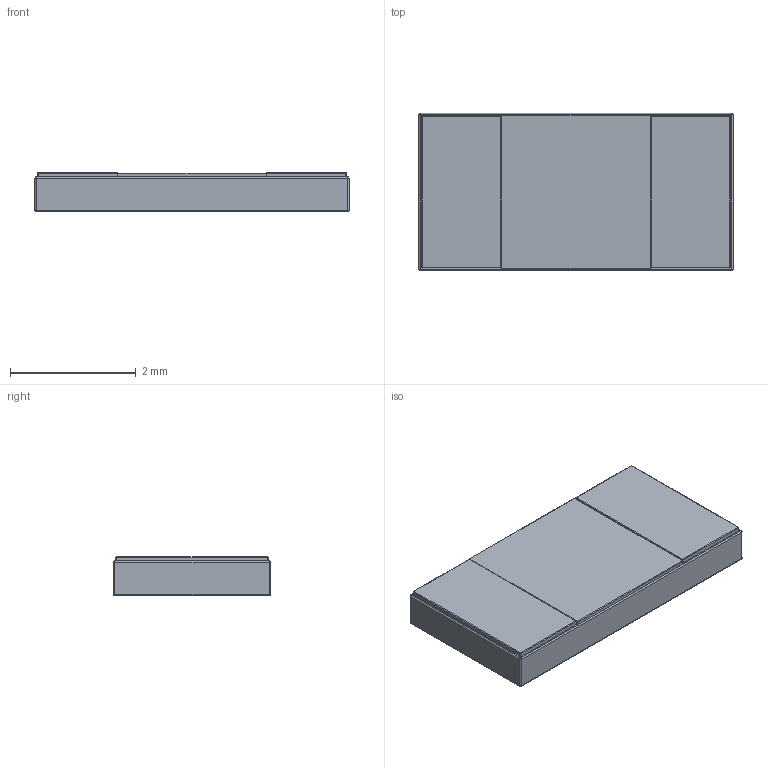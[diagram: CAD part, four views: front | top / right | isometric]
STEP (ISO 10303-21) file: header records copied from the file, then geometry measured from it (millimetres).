
FILE_DESCRIPTION(('STEP AP203'), '1');
FILE_NAME('R2-105-2010', '', ('UNSPECIFIED'), ('UNSPECIFIED'), 'ASCON STEP Converter 1.6', 'ASCON Math Kernel', '');
FILE_SCHEMA(('CONFIG_CONTROL_DESIGN'));
Length unit declared in the file: millimetre
Bounding box: 5 x 2.5 x 0.62 mm (x, y, z)
Volume: 7.7 mm3; surface area: 58.7 mm2
Topology: 4 solids, 5 shells, 91 faces, 207 edges, 110 vertices
Faces by surface type: plane 39, cylinder 36, sphere 16
Entity records: 3165 total; most frequent: DIRECTION 435, CARTESIAN_POINT 405, ORIENTED_EDGE 382, EDGE_CURVE 191, AXIS2_PLACEMENT_3D 156, LINE 123, VECTOR 123, VERTEX_POINT 110
